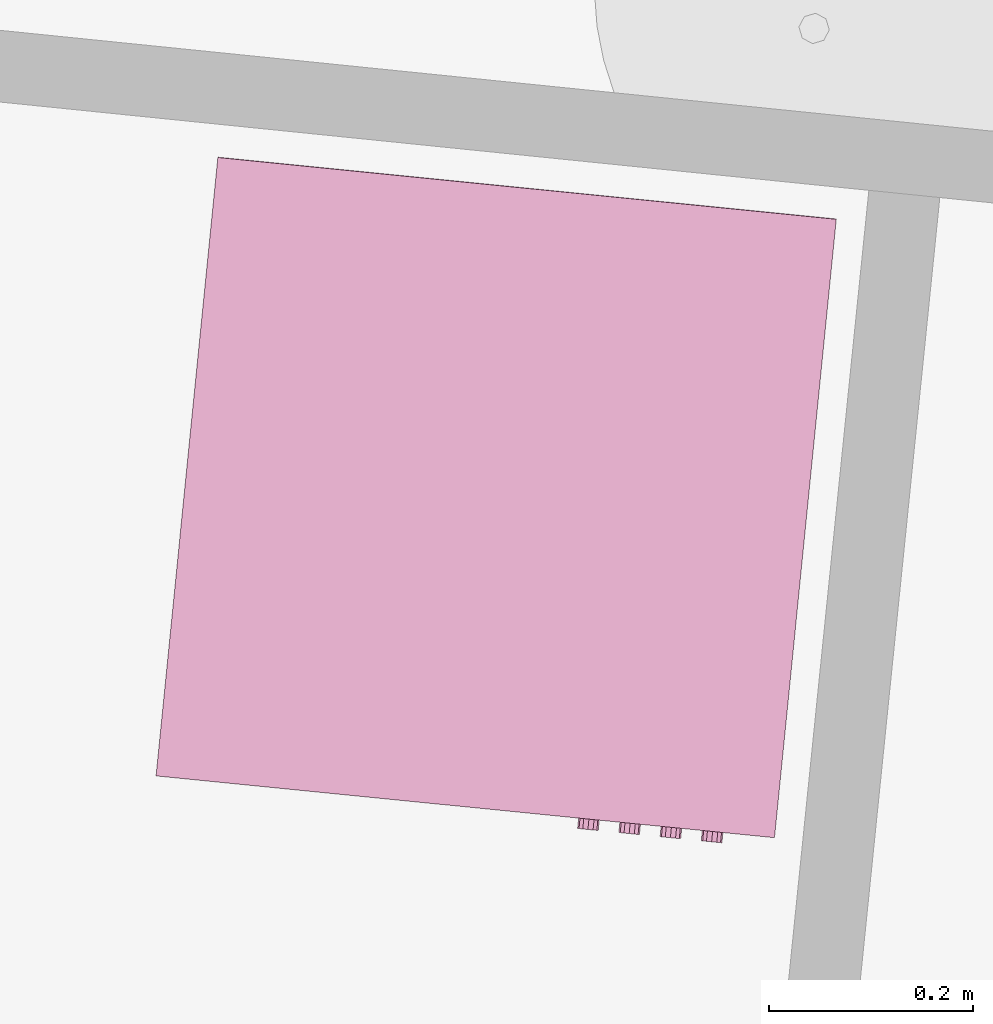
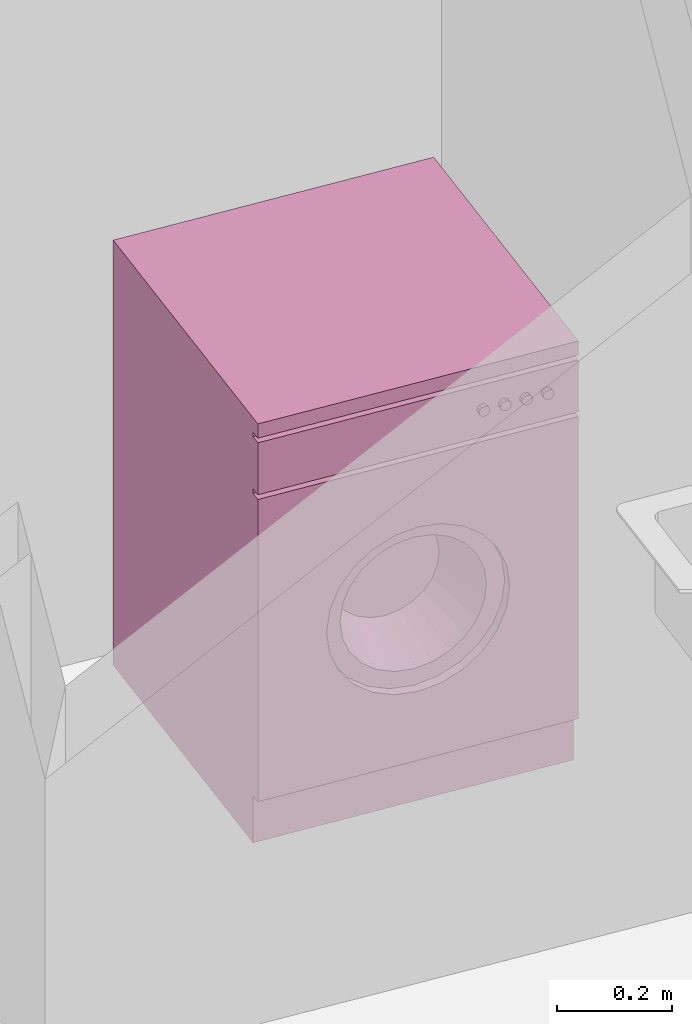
# One storey, part 128 of 164: 1 furnishing.
"""IFC2X3 building model written with IfcOpenShell, lengths in millimetres."""

from ifc_helpers import new_model, entity, si_unit, converted_unit, derived_unit, money_unit, direction, frame, origin_with_axes, place, context, subcontext, project, spatial, open_shell, faceted_brep, surface_model, source, transform, mapped, type_object, element, save


model = new_model("IFC2X3")

# Units and contexts
model_context = context("Model", 3, precision=0.01, world=origin_with_axes(), true_north=direction((0.0, 1.0)))
body_context = subcontext(model_context, "Body", "Model", "MODEL_VIEW")
ifc_project = project(units=[si_unit("LENGTHUNIT", "METRE", prefix="MILLI"), si_unit("AREAUNIT", "SQUARE_METRE"), si_unit("VOLUMEUNIT", "CUBIC_METRE"), converted_unit("PLANEANGLEUNIT", "DEGREE", entity("IfcPlaneAngleMeasure", 0.0174532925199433), si_unit("PLANEANGLEUNIT", "RADIAN"), dimensions=[0, 0, 0, 0, 0, 0, 0]), money_unit("USD"), converted_unit("TIMEUNIT", "Year", entity("IfcTimeMeasure", 31557600.0), si_unit("TIMEUNIT", "SECOND"), dimensions=[0, 0, 1, 0, 0, 0, 0]), si_unit("MASSUNIT", "GRAM", prefix="KILO"), si_unit("THERMODYNAMICTEMPERATUREUNIT", "DEGREE_CELSIUS"), si_unit("LUMINOUSINTENSITYUNIT", "LUMEN"), si_unit("ENERGYUNIT", "JOULE", prefix="MEGA"), derived_unit("THERMALCONDUCTANCEUNIT", [(si_unit("POWERUNIT", "WATT"), 1), (si_unit("LENGTHUNIT", "METRE"), -1), (si_unit("THERMODYNAMICTEMPERATUREUNIT", "KELVIN"), -1)]), derived_unit("SPECIFICHEATCAPACITYUNIT", [(si_unit("ENERGYUNIT", "JOULE"), 1), (si_unit("MASSUNIT", "GRAM", prefix="KILO"), -1), (si_unit("THERMODYNAMICTEMPERATUREUNIT", "KELVIN"), -1)]), derived_unit("MASSDENSITYUNIT", [(si_unit("MASSUNIT", "GRAM", prefix="KILO"), 1), (si_unit("VOLUMEUNIT", "CUBIC_METRE"), -1)])], contexts=[model_context])

# Site, building, storey
site_placement = place(None, origin_with_axes())
site = spatial("IfcSite", under=ifc_project, at=site_placement, Name="Site", CompositionType="ELEMENT")
building_placement = place(site_placement, origin_with_axes())
building = spatial("IfcBuilding", under=site, at=building_placement, Name="Bâtiment", CompositionType="ELEMENT")
storey_placement = place(building_placement, frame((0.0, 0.0, 5750.0), z_axis=(0.0, 0.0, 1.0), x_axis=(1.0, 0.0, 0.0)))
storey = spatial("IfcBuildingStorey", under=building, at=storey_placement, Name="Etage1", CompositionType="ELEMENT", Elevation=5750.0)

# Furnishing
furnishing_element_type = type_object("IfcFurnishingElementType", Name="Machine à laver")
shared_shape = source(origin_with_axes(), body_context, "Body", "SurfaceModel", [
    faceted_brep([(0.0, 20.33333333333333, 100.0), (0.0, 0.0, 100.0), (-610.0, 0.0, 100.0), (-610.0, 20.33333333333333, 100.0), (0.0, 20.33333333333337, 740.0), (0.0, 0.0, 740.0), (-610.0, 0.0, 740.0), (-479.2857142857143, 0.0, 420.0000000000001), (-473.3470725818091, 0.0, 465.1084621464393), (-455.935856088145, 0.0, 507.1428571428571), (-428.2386104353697, 0.0, 543.2386104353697), (-392.1428571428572, 0.0, 570.935856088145), (-350.1084621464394, 0.0, 588.347072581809), (-305.0000000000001, 0.0, 594.2857142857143), (-259.8915378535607, 0.0, 588.347072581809), (-217.8571428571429, 0.0, 570.9358560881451), (-181.7613895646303, 0.0, 543.2386104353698), (-154.0641439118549, 0.0, 507.1428571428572), (-136.6529274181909, 0.0, 465.1084621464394), (-130.7142857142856, 0.0, 420.0000000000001), (-136.6529274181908, 0.0, 374.8915378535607), (-154.0641439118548, 0.0, 332.8571428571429), (-181.7613895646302, 0.0, 296.7613895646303), (-217.8571428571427, 0.0, 269.064143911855), (-259.8915378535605, 0.0, 251.6529274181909), (-304.9999999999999, 0.0, 245.7142857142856), (-350.1084621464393, 0.0, 251.6529274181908), (-392.1428571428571, 0.0, 269.0641439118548), (-428.2386104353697, 0.0, 296.7613895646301), (-455.935856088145, 0.0, 332.8571428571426), (-473.3470725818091, 0.0, 374.8915378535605), (-610.0, 20.33333333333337, 740.0), (-479.2857142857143, 20.33333333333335, 420.0000000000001), (-473.3470725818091, 20.33333333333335, 374.8915378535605), (-455.935856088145, 20.33333333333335, 332.8571428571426), (-428.2386104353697, 20.33333333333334, 296.7613895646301), (-392.1428571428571, 20.33333333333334, 269.0641439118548), (-350.1084621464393, 20.33333333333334, 251.6529274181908), (-304.9999999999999, 20.33333333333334, 245.7142857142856), (-259.8915378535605, 20.33333333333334, 251.6529274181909), (-217.8571428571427, 20.33333333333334, 269.064143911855), (-181.7613895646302, 20.33333333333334, 296.7613895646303), (-154.0641439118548, 20.33333333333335, 332.8571428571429), (-136.6529274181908, 20.33333333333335, 374.8915378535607), (-130.7142857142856, 20.33333333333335, 420.0000000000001), (-136.6529274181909, 20.33333333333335, 465.1084621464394), (-154.0641439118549, 20.33333333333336, 507.1428571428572), (-181.7613895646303, 20.33333333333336, 543.2386104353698), (-217.8571428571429, 20.33333333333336, 570.9358560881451), (-259.8915378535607, 20.33333333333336, 588.347072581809), (-305.0000000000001, 20.33333333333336, 594.2857142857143), (-350.1084621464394, 20.33333333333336, 588.347072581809), (-392.1428571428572, 20.33333333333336, 570.935856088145), (-428.2386104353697, 20.33333333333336, 543.2386104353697), (-455.935856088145, 20.33333333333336, 507.1428571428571), (-473.3470725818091, 20.33333333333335, 465.1084621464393)], [[[0, 1, 2, 3]], [[4, 5, 1, 0]], [[1, 5, 6, 2], [7, 8, 9, 10, 11, 12, 13, 14, 15, 16, 17, 18, 19, 20, 21, 22, 23, 24, 25, 26, 27, 28, 29, 30]], [[3, 2, 6, 31]], [[0, 3, 31, 4], [32, 33, 34, 35, 36, 37, 38, 39, 40, 41, 42, 43, 44, 45, 46, 47, 48, 49, 50, 51, 52, 53, 54, 55]], [[31, 6, 5, 4]], [[55, 8, 7, 32]], [[54, 9, 8, 55]], [[53, 10, 9, 54]], [[52, 11, 10, 53]], [[51, 12, 11, 52]], [[50, 13, 12, 51]], [[49, 14, 13, 50]], [[48, 15, 14, 49]], [[47, 16, 15, 48]], [[46, 17, 16, 47]], [[45, 18, 17, 46]], [[44, 19, 18, 45]], [[43, 20, 19, 44]], [[42, 21, 20, 43]], [[41, 22, 21, 42]], [[40, 23, 22, 41]], [[39, 24, 23, 40]], [[38, 25, 24, 39]], [[37, 26, 25, 38]], [[36, 27, 26, 37]], [[35, 28, 27, 36]], [[34, 29, 28, 35]], [[33, 30, 29, 34]], [[32, 7, 30, 33]]]),
    faceted_brep([(-479.2857142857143, 40.66666666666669, 420.0000000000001), (-479.2857142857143, 20.33333333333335, 420.0000000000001), (-473.3470725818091, 20.33333333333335, 465.1084621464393), (-473.3470725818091, 40.66666666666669, 465.1084621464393), (-473.3470725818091, 40.66666666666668, 374.8915378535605), (-473.3470725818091, 20.33333333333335, 374.8915378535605), (-455.935856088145, 20.33333333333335, 332.8571428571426), (-428.2386104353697, 20.33333333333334, 296.7613895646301), (-392.1428571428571, 20.33333333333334, 269.0641439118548), (-350.1084621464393, 20.33333333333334, 251.6529274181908), (-304.9999999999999, 20.33333333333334, 245.7142857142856), (-259.8915378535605, 20.33333333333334, 251.6529274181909), (-217.8571428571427, 20.33333333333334, 269.064143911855), (-181.7613895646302, 20.33333333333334, 296.7613895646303), (-154.0641439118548, 20.33333333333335, 332.8571428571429), (-136.6529274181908, 20.33333333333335, 374.8915378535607), (-130.7142857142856, 20.33333333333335, 420.0000000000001), (-136.6529274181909, 20.33333333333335, 465.1084621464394), (-154.0641439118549, 20.33333333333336, 507.1428571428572), (-181.7613895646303, 20.33333333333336, 543.2386104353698), (-217.8571428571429, 20.33333333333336, 570.9358560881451), (-259.8915378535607, 20.33333333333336, 588.347072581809), (-305.0000000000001, 20.33333333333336, 594.2857142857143), (-350.1084621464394, 20.33333333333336, 588.347072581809), (-392.1428571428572, 20.33333333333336, 570.935856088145), (-428.2386104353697, 20.33333333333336, 543.2386104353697), (-455.935856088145, 20.33333333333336, 507.1428571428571), (-444.4285714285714, 20.33333333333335, 420.0000000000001), (-439.6776580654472, 20.33333333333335, 456.0867697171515), (-425.748684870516, 20.33333333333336, 489.7142857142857), (-403.5908883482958, 20.33333333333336, 518.5908883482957), (-374.7142857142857, 20.33333333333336, 540.748684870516), (-341.0867697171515, 20.33333333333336, 554.6776580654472), (-305.0000000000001, 20.33333333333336, 559.4285714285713), (-268.9132302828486, 20.33333333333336, 554.6776580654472), (-235.2857142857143, 20.33333333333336, 540.7486848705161), (-206.4091116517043, 20.33333333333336, 518.5908883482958), (-184.251315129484, 20.33333333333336, 489.7142857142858), (-170.3223419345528, 20.33333333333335, 456.0867697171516), (-165.5714285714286, 20.33333333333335, 420.0000000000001), (-170.3223419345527, 20.33333333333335, 383.9132302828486), (-184.2513151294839, 20.33333333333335, 350.2857142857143), (-206.4091116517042, 20.33333333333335, 321.4091116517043), (-235.2857142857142, 20.33333333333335, 299.251315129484), (-268.9132302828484, 20.33333333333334, 285.3223419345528), (-304.9999999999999, 20.33333333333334, 280.5714285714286), (-341.0867697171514, 20.33333333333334, 285.3223419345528), (-374.7142857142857, 20.33333333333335, 299.2513151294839), (-403.5908883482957, 20.33333333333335, 321.4091116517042), (-425.748684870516, 20.33333333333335, 350.2857142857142), (-439.6776580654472, 20.33333333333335, 383.9132302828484), (-455.935856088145, 40.66666666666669, 507.1428571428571), (-428.2386104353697, 40.66666666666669, 543.2386104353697), (-392.1428571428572, 40.66666666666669, 570.935856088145), (-350.1084621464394, 40.66666666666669, 588.347072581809), (-305.0000000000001, 40.66666666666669, 594.2857142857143), (-259.8915378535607, 40.66666666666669, 588.347072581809), (-217.8571428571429, 40.66666666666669, 570.9358560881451), (-181.7613895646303, 40.66666666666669, 543.2386104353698), (-154.0641439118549, 40.66666666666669, 507.1428571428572), (-136.6529274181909, 40.66666666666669, 465.1084621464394), (-130.7142857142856, 40.66666666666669, 420.0000000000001), (-136.6529274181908, 40.66666666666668, 374.8915378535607), (-154.0641439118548, 40.66666666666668, 332.8571428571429), (-181.7613895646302, 40.66666666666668, 296.7613895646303), (-217.8571428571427, 40.66666666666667, 269.064143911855), (-259.8915378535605, 40.66666666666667, 251.6529274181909), (-304.9999999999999, 40.66666666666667, 245.7142857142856), (-350.1084621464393, 40.66666666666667, 251.6529274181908), (-392.1428571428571, 40.66666666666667, 269.0641439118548), (-428.2386104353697, 40.66666666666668, 296.7613895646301), (-455.935856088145, 40.66666666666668, 332.8571428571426), (-444.4285714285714, 40.66666666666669, 420.0000000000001), (-439.6776580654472, 40.66666666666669, 383.9132302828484), (-425.748684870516, 40.66666666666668, 350.2857142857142), (-403.5908883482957, 40.66666666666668, 321.4091116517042), (-374.7142857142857, 40.66666666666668, 299.2513151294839), (-341.0867697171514, 40.66666666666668, 285.3223419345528), (-304.9999999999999, 40.66666666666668, 280.5714285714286), (-268.9132302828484, 40.66666666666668, 285.3223419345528), (-235.2857142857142, 40.66666666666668, 299.251315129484), (-206.4091116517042, 40.66666666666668, 321.4091116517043), (-184.2513151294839, 40.66666666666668, 350.2857142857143), (-170.3223419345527, 40.66666666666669, 383.9132302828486), (-165.5714285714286, 40.66666666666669, 420.0000000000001), (-170.3223419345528, 40.66666666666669, 456.0867697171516), (-184.251315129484, 40.66666666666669, 489.7142857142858), (-206.4091116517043, 40.66666666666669, 518.5908883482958), (-235.2857142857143, 40.66666666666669, 540.7486848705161), (-268.9132302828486, 40.66666666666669, 554.6776580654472), (-305.0000000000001, 40.66666666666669, 559.4285714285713), (-341.0867697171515, 40.66666666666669, 554.6776580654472), (-374.7142857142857, 40.66666666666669, 540.748684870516), (-403.5908883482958, 40.66666666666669, 518.5908883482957), (-425.748684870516, 40.66666666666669, 489.7142857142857), (-439.6776580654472, 40.66666666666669, 456.0867697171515)], [[[0, 1, 2, 3]], [[4, 5, 1, 0]], [[1, 5, 6, 7, 8, 9, 10, 11, 12, 13, 14, 15, 16, 17, 18, 19, 20, 21, 22, 23, 24, 25, 26, 2], [27, 28, 29, 30, 31, 32, 33, 34, 35, 36, 37, 38, 39, 40, 41, 42, 43, 44, 45, 46, 47, 48, 49, 50]], [[3, 2, 26, 51]], [[0, 3, 51, 52, 53, 54, 55, 56, 57, 58, 59, 60, 61, 62, 63, 64, 65, 66, 67, 68, 69, 70, 71, 4], [72, 73, 74, 75, 76, 77, 78, 79, 80, 81, 82, 83, 84, 85, 86, 87, 88, 89, 90, 91, 92, 93, 94, 95]], [[71, 6, 5, 4]], [[70, 7, 6, 71]], [[69, 8, 7, 70]], [[68, 9, 8, 69]], [[67, 10, 9, 68]], [[66, 11, 10, 67]], [[65, 12, 11, 66]], [[64, 13, 12, 65]], [[63, 14, 13, 64]], [[62, 15, 14, 63]], [[61, 16, 15, 62]], [[60, 17, 16, 61]], [[59, 18, 17, 60]], [[58, 19, 18, 59]], [[57, 20, 19, 58]], [[56, 21, 20, 57]], [[55, 22, 21, 56]], [[54, 23, 22, 55]], [[53, 24, 23, 54]], [[52, 25, 24, 53]], [[51, 26, 25, 52]], [[95, 28, 27, 72]], [[94, 29, 28, 95]], [[93, 30, 29, 94]], [[92, 31, 30, 93]], [[91, 32, 31, 92]], [[90, 33, 32, 91]], [[89, 34, 33, 90]], [[88, 35, 34, 89]], [[87, 36, 35, 88]], [[86, 37, 36, 87]], [[85, 38, 37, 86]], [[84, 39, 38, 85]], [[83, 40, 39, 84]], [[82, 41, 40, 83]], [[81, 42, 41, 82]], [[80, 43, 42, 81]], [[79, 44, 43, 80]], [[78, 45, 44, 79]], [[77, 46, 45, 78]], [[76, 47, 46, 77]], [[75, 48, 47, 76]], [[74, 49, 48, 75]], [[73, 50, 49, 74]], [[72, 27, 50, 73]]]),
    surface_model("IfcShellBasedSurfaceModel", [(-268.9132302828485, 40.6666666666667, 554.6776580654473), (-277.9349227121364, 142.3333333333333, 521.0082435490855), (-305.0, 142.3333333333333, 524.5714285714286), (-305.0, 40.6666666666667, 559.4285714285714), (-235.2857142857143, 40.6666666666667, 540.7486848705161), (-252.7142857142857, 142.3333333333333, 510.5615136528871), (-231.0568337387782, 142.3333333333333, 493.9431662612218), (-214.438486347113, 142.3333333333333, 472.2857142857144), (-203.9917564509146, 142.3333333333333, 447.0650772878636), (-200.4285714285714, 142.3333333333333, 420.0000000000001), (-203.9917564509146, 142.3333333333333, 392.9349227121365), (-214.4384863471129, 142.3333333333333, 367.7142857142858), (-231.0568337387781, 142.3333333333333, 346.0568337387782), (-252.7142857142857, 142.3333333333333, 329.438486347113), (-277.9349227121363, 142.3333333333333, 318.9917564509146), (-304.9999999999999, 142.3333333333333, 315.4285714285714), (-332.0650772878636, 142.3333333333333, 318.9917564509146), (-357.2857142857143, 142.3333333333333, 329.438486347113), (-378.9431662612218, 142.3333333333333, 346.0568337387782), (-395.561513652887, 142.3333333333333, 367.7142857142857), (-406.0082435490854, 142.3333333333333, 392.9349227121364), (-409.5714285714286, 142.3333333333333, 420.0), (-406.0082435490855, 142.3333333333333, 447.0650772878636), (-395.5615136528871, 142.3333333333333, 472.2857142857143), (-378.9431662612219, 142.3333333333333, 493.9431662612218), (-357.2857142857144, 142.3333333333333, 510.5615136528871), (-332.0650772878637, 142.3333333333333, 521.0082435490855), (-341.0867697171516, 40.6666666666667, 554.6776580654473), (-206.4091116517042, 40.66666666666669, 518.5908883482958), (-184.251315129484, 40.66666666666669, 489.7142857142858), (-170.3223419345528, 40.66666666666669, 456.0867697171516), (-165.5714285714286, 40.66666666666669, 420.0000000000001), (-170.3223419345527, 40.66666666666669, 383.9132302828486), (-184.2513151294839, 40.66666666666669, 350.2857142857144), (-206.4091116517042, 40.66666666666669, 321.4091116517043), (-235.2857142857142, 40.66666666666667, 299.251315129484), (-268.9132302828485, 40.66666666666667, 285.3223419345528), (-304.9999999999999, 40.66666666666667, 280.5714285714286), (-341.0867697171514, 40.66666666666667, 285.3223419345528), (-374.7142857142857, 40.66666666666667, 299.2513151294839), (-403.5908883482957, 40.66666666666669, 321.4091116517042), (-425.748684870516, 40.66666666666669, 350.2857142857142), (-439.6776580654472, 40.66666666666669, 383.9132302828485), (-444.4285714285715, 40.66666666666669, 419.9999999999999), (-439.6776580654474, 40.66666666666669, 456.0867697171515), (-425.7486848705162, 40.66666666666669, 489.7142857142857), (-403.5908883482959, 40.66666666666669, 518.5908883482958), (-374.7142857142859, 40.6666666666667, 540.7486848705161)], [open_shell([[[0, 1, 2, 3]], [[4, 5, 1, 0]], [[2, 1, 5, 6, 7, 8, 9, 10, 11, 12, 13, 14, 15, 16, 17, 18, 19, 20, 21, 22, 23, 24, 25, 26]], [[3, 2, 26, 27]], [[28, 6, 5, 4]], [[29, 7, 6, 28]], [[30, 8, 7, 29]], [[31, 9, 8, 30]], [[32, 10, 9, 31]], [[33, 11, 10, 32]], [[34, 12, 11, 33]], [[35, 13, 12, 34]], [[36, 14, 13, 35]], [[37, 15, 14, 36]], [[38, 16, 15, 37]], [[39, 17, 16, 38]], [[40, 18, 17, 39]], [[41, 19, 18, 40]], [[42, 20, 19, 41]], [[43, 21, 20, 42]], [[44, 22, 21, 43]], [[45, 23, 22, 44]], [[46, 24, 23, 45]], [[47, 25, 24, 46]], [[27, 26, 25, 47]]])]),
    surface_model("IfcShellBasedSurfaceModel", [(0.0, 20.33333333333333, 100.0), (0.0, 610.0, 99.99999999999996), (0.0, 610.0, 870.0), (0.0, 20.33333333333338, 870.0)], [open_shell([[[0, 1, 2, 3]]])]),
    surface_model("IfcShellBasedSurfaceModel", [(-610.0, 20.33333333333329, 100.0), (-610.0, 610.0, 99.99999999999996), (-610.0, 610.0, 870.0), (-610.0, 20.33333333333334, 870.0)], [open_shell([[[0, 1, 2, 3]]])]),
    surface_model("IfcShellBasedSurfaceModel", [(0.0, 610.0, 100.0), (-610.0, 610.0, 100.0), (-610.0, 610.0, 870.0), (0.0, 610.0, 870.0)], [open_shell([[[0, 1, 2, 3]]])]),
    faceted_brep([(0.0, 20.33333333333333, 0.0), (0.0, 20.33333333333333, 100.0), (-610.0, 20.33333333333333, 100.0), (-610.0, 20.33333333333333, 0.0), (0.0, 610.3333333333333, 0.0), (0.0, 610.3333333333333, 100.0), (-610.0, 610.3333333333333, 100.0), (-610.0, 610.3333333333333, 0.0)], [[[0, 1, 2, 3]], [[4, 5, 1, 0]], [[1, 5, 6, 2]], [[3, 2, 6, 7]], [[0, 3, 7, 4]], [[7, 6, 5, 4]]]),
    faceted_brep([(0.0, 20.33333333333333, 750.0), (0.0, 0.0, 750.0), (-610.0, 0.0, 750.0), (-610.0, 20.33333333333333, 750.0), (0.0, 20.33333333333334, 860.0), (0.0, 0.0, 860.0), (-610.0, 0.0, 860.0), (-610.0, 20.33333333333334, 860.0)], [[[0, 1, 2, 3]], [[4, 5, 1, 0]], [[1, 5, 6, 2]], [[3, 2, 6, 7]], [[0, 3, 7, 4]], [[7, 6, 5, 4]]]),
    surface_model("IfcShellBasedSurfaceModel", [(0.0, 20.33333333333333, 739.8333333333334), (-610.0, 20.33333333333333, 739.8333333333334), (-610.0, 20.33333333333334, 869.8333333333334), (0.0, 20.33333333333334, 869.8333333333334)], [open_shell([[[0, 1, 2, 3]]])]),
    faceted_brep([(0.0, 0.0, 870.0), (0.0, 0.0, 900.0), (-610.0, 0.0, 900.0), (-610.0, 0.0, 870.0), (0.0, 610.0, 870.0), (0.0, 610.0, 900.0), (-610.0, 610.0, 900.0), (-610.0, 610.0, 870.0)], [[[0, 1, 2, 3]], [[4, 5, 1, 0]], [[1, 5, 6, 2]], [[3, 2, 6, 7]], [[0, 3, 7, 4]], [[7, 6, 5, 4]]]),
    faceted_brep([(-69.80459160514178, 0.0, 804.9166666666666), (-71.16666666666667, 0.0, 809.9999999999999), (-69.8045916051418, 0.0, 815.0833333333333), (-66.08333333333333, 0.0, 818.8045916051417), (-61.0, 0.0, 820.1666666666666), (-55.91666666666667, 0.0, 818.8045916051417), (-52.19540839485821, 0.0, 815.0833333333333), (-50.83333333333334, 0.0, 809.9999999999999), (-52.1954083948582, 0.0, 804.9166666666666), (-55.91666666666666, 0.0, 801.1954083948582), (-60.99999999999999, 0.0, 799.8333333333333), (-66.08333333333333, 0.0, 801.1954083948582), (-69.80459160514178, -10.16666666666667, 804.9166666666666), (-71.16666666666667, -10.16666666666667, 809.9999999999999), (-69.8045916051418, -10.16666666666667, 815.0833333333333), (-66.08333333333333, -10.16666666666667, 818.8045916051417), (-61.0, -10.16666666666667, 820.1666666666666), (-55.91666666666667, -10.16666666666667, 818.8045916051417), (-52.19540839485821, -10.16666666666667, 815.0833333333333), (-50.83333333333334, -10.16666666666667, 809.9999999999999), (-52.1954083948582, -10.16666666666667, 804.9166666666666), (-55.91666666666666, -10.16666666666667, 801.1954083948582), (-60.99999999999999, -10.16666666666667, 799.8333333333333), (-66.08333333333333, -10.16666666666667, 801.1954083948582)], [[[0, 1, 2, 3, 4, 5, 6, 7, 8, 9, 10, 11]], [[0, 12, 13, 1]], [[1, 13, 14, 2]], [[2, 14, 15, 3]], [[3, 15, 16, 4]], [[4, 16, 17, 5]], [[5, 17, 18, 6]], [[6, 18, 19, 7]], [[7, 19, 20, 8]], [[8, 20, 21, 9]], [[9, 21, 22, 10]], [[10, 22, 23, 11]], [[11, 23, 12, 0]], [[12, 23, 22, 21, 20, 19, 18, 17, 16, 15, 14, 13]]]),
    faceted_brep([(-110.4712582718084, 0.0, 804.9166666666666), (-111.8333333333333, 0.0, 809.9999999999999), (-110.4712582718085, 0.0, 815.0833333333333), (-106.75, 0.0, 818.8045916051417), (-101.6666666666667, 0.0, 820.1666666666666), (-96.58333333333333, 0.0, 818.8045916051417), (-92.86207506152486, 0.0, 815.0833333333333), (-91.49999999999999, 0.0, 809.9999999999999), (-92.86207506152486, 0.0, 804.9166666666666), (-96.58333333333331, 0.0, 801.1954083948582), (-101.6666666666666, 0.0, 799.8333333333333), (-106.75, 0.0, 801.1954083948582), (-110.4712582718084, -10.16666666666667, 804.9166666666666), (-111.8333333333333, -10.16666666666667, 809.9999999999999), (-110.4712582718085, -10.16666666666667, 815.0833333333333), (-106.75, -10.16666666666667, 818.8045916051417), (-101.6666666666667, -10.16666666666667, 820.1666666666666), (-96.58333333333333, -10.16666666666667, 818.8045916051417), (-92.86207506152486, -10.16666666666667, 815.0833333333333), (-91.49999999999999, -10.16666666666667, 809.9999999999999), (-92.86207506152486, -10.16666666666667, 804.9166666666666), (-96.58333333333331, -10.16666666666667, 801.1954083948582), (-101.6666666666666, -10.16666666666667, 799.8333333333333), (-106.75, -10.16666666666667, 801.1954083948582)], [[[0, 1, 2, 3, 4, 5, 6, 7, 8, 9, 10, 11]], [[0, 12, 13, 1]], [[1, 13, 14, 2]], [[2, 14, 15, 3]], [[3, 15, 16, 4]], [[4, 16, 17, 5]], [[5, 17, 18, 6]], [[6, 18, 19, 7]], [[7, 19, 20, 8]], [[8, 20, 21, 9]], [[9, 21, 22, 10]], [[10, 22, 23, 11]], [[11, 23, 12, 0]], [[12, 23, 22, 21, 20, 19, 18, 17, 16, 15, 14, 13]]]),
    faceted_brep([(-151.1379249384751, 0.0, 804.9166666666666), (-152.5, 0.0, 809.9999999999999), (-151.1379249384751, 0.0, 815.0833333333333), (-147.4166666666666, 0.0, 818.8045916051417), (-142.3333333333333, 0.0, 820.1666666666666), (-137.25, 0.0, 818.8045916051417), (-133.5287417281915, 0.0, 815.0833333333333), (-132.1666666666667, 0.0, 809.9999999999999), (-133.5287417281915, 0.0, 804.9166666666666), (-137.25, 0.0, 801.1954083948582), (-142.3333333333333, 0.0, 799.8333333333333), (-147.4166666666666, 0.0, 801.1954083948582), (-151.1379249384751, -10.16666666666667, 804.9166666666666), (-152.5, -10.16666666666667, 809.9999999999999), (-151.1379249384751, -10.16666666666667, 815.0833333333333), (-147.4166666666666, -10.16666666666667, 818.8045916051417), (-142.3333333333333, -10.16666666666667, 820.1666666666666), (-137.25, -10.16666666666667, 818.8045916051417), (-133.5287417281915, -10.16666666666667, 815.0833333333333), (-132.1666666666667, -10.16666666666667, 809.9999999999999), (-133.5287417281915, -10.16666666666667, 804.9166666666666), (-137.25, -10.16666666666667, 801.1954083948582), (-142.3333333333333, -10.16666666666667, 799.8333333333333), (-147.4166666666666, -10.16666666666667, 801.1954083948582)], [[[0, 1, 2, 3, 4, 5, 6, 7, 8, 9, 10, 11]], [[0, 12, 13, 1]], [[1, 13, 14, 2]], [[2, 14, 15, 3]], [[3, 15, 16, 4]], [[4, 16, 17, 5]], [[5, 17, 18, 6]], [[6, 18, 19, 7]], [[7, 19, 20, 8]], [[8, 20, 21, 9]], [[9, 21, 22, 10]], [[10, 22, 23, 11]], [[11, 23, 12, 0]], [[12, 23, 22, 21, 20, 19, 18, 17, 16, 15, 14, 13]]]),
    faceted_brep([(-191.8045916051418, 0.0, 804.9166666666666), (-193.1666666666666, 0.0, 809.9999999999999), (-191.8045916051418, 0.0, 815.0833333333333), (-188.0833333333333, 0.0, 818.8045916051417), (-183.0, 0.0, 820.1666666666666), (-177.9166666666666, 0.0, 818.8045916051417), (-174.1954083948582, 0.0, 815.0833333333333), (-172.8333333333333, 0.0, 809.9999999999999), (-174.1954083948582, 0.0, 804.9166666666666), (-177.9166666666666, 0.0, 801.1954083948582), (-183.0, 0.0, 799.8333333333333), (-188.0833333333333, 0.0, 801.1954083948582), (-191.8045916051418, -10.16666666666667, 804.9166666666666), (-193.1666666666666, -10.16666666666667, 809.9999999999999), (-191.8045916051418, -10.16666666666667, 815.0833333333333), (-188.0833333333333, -10.16666666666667, 818.8045916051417), (-183.0, -10.16666666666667, 820.1666666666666), (-177.9166666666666, -10.16666666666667, 818.8045916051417), (-174.1954083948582, -10.16666666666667, 815.0833333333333), (-172.8333333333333, -10.16666666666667, 809.9999999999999), (-174.1954083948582, -10.16666666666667, 804.9166666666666), (-177.9166666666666, -10.16666666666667, 801.1954083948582), (-183.0, -10.16666666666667, 799.8333333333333), (-188.0833333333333, -10.16666666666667, 801.1954083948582)], [[[0, 1, 2, 3, 4, 5, 6, 7, 8, 9, 10, 11]], [[0, 12, 13, 1]], [[1, 13, 14, 2]], [[2, 14, 15, 3]], [[3, 15, 16, 4]], [[4, 16, 17, 5]], [[5, 17, 18, 6]], [[6, 18, 19, 7]], [[7, 19, 20, 8]], [[8, 20, 21, 9]], [[9, 21, 22, 10]], [[10, 22, 23, 11]], [[11, 23, 12, 0]], [[12, 23, 22, 21, 20, 19, 18, 17, 16, 15, 14, 13]]]),
])
furnishing_placement = place(storey_placement, frame((2224358.079953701, -617334.2925070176, 0.0), z_axis=(0.0, 0.0, 1.0), x_axis=(0.9950436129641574, -0.09943947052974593, 0.0)))
element("IfcFurnishingElement", 1, at=furnishing_placement, inside=storey, type_object=furnishing_element_type, Name="Obj.-003", context=body_context, shape_type="MappedRepresentation", body=[
    mapped(shared_shape, transform((0.0, 0.0, 0.0))),
])

save(model, "model.ifc")
